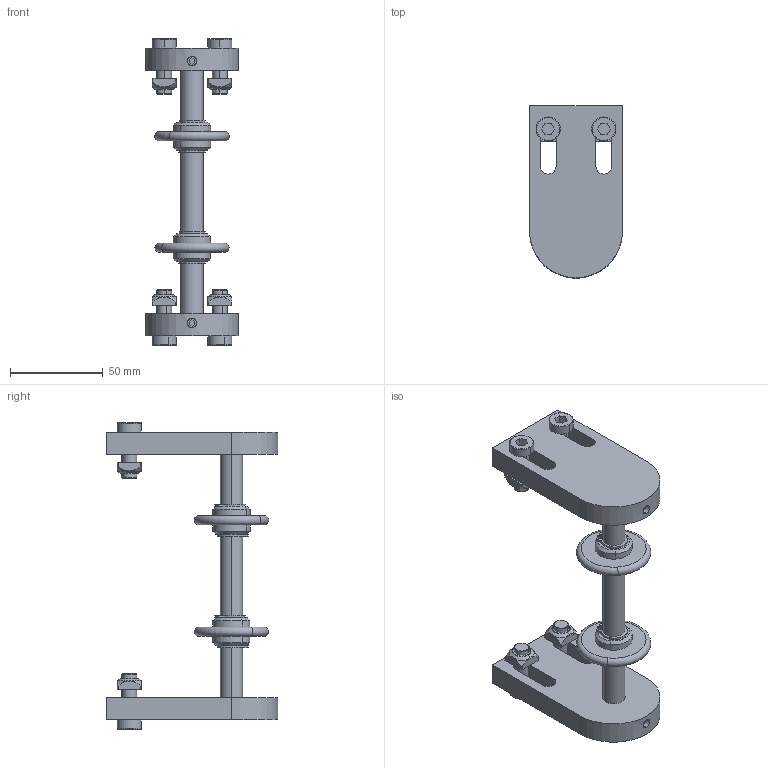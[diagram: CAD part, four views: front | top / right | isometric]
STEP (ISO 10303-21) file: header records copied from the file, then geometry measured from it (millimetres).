
FILE_DESCRIPTION (( 'STEP AP203' ), '1' );
FILE_NAME ('084.050.KSW.100.STEP', '2019-07-30T06:53:17', ( '' ), ( '' ), 'SwSTEP 2.0', 'SolidWorks 2018', '' );
FILE_SCHEMA (( 'CONFIG_CONTROL_DESIGN' ));
Length unit declared in the file: millimetre
Products named in the file (8): GRANI A PUNTA PIATTA UNI 5923_M6x16 UNI 5923; 084.802.030; 084.302.000 DADI ALUSIC 13x13-1_084.302.004; Parte359^084.050.KSW.100; 084.050.KSW.100; 084.802.041; Circlip DIN 471 - 12 x 1_Circlip DIN 471 - 12 x 1; 084.301.000 VITI ALUSIC_084.301.004
Assembly tree (19 placements, depth 2):
  084.050.KSW.100
    Parte359^084.050.KSW.100
    084.802.041  x2
    084.802.030  x2
    Circlip DIN 471 - 12 x 1_Circlip DIN 471 - 12 x 1  x4
    GRANI A PUNTA PIATTA UNI 5923_M6x16 UNI 5923  x2
    084.301.000 VITI ALUSIC_084.301.004  x4
    084.302.000 DADI ALUSIC 13x13-1_084.302.004  x4
Bounding box: 50 x 92.5 x 165 mm (x, y, z)
Volume: 132950.5 mm3; surface area: 48706.7 mm2
Topology: 19 solids, 19 shells, 360 faces, 878 edges, 572 vertices
Faces by surface type: cylinder 140, plane 136, torus 36, cone 32, bspline 16
Entity records: 5118 total; most frequent: CARTESIAN_POINT 1118, DIRECTION 630, ORIENTED_EDGE 560, EDGE_CURVE 280, AXIS2_PLACEMENT_3D 248, VERTEX_POINT 182, EDGE_LOOP 138, VECTOR 134
